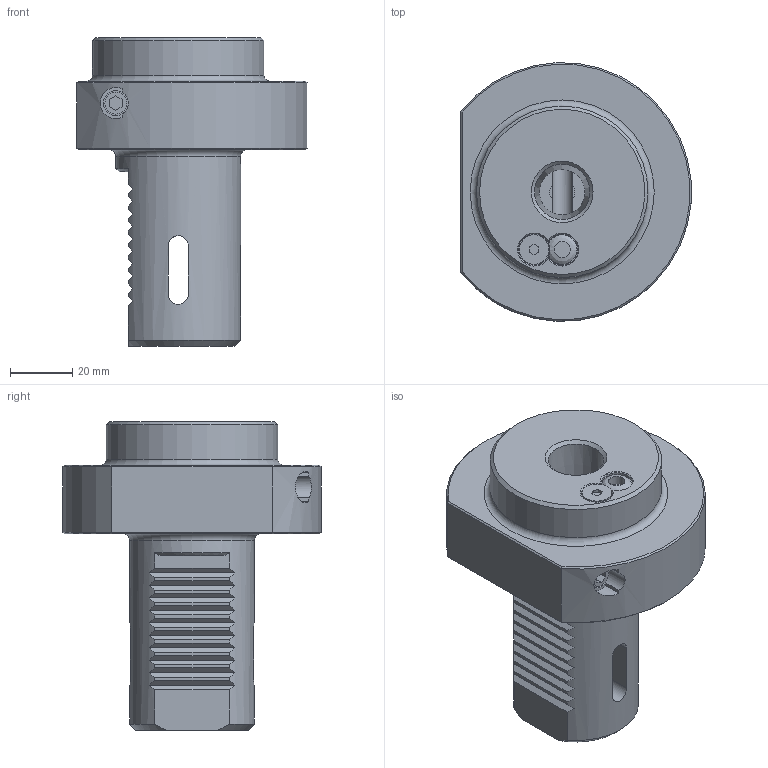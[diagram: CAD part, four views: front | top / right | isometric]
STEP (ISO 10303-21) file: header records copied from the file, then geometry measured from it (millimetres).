
FILE_DESCRIPTION(/* description */ (''),/* implementation_level */ '2;1');
FILE_NAME(/* name */ 'F40-MKD2.stp',/* time_stamp */ '2025-09-25T15:05:17+03:00',/* author */ ('User'),/* organization */ (''),/* preprocessor_version */ 'ST-DEVELOPER v19.2',/* originating_system */ 'Autodesk Inventor 2024',/* authorisation */ '');
FILE_SCHEMA (('AUTOMOTIVE_DESIGN { 1 0 10303 214 3 1 1 }'));
Length unit declared in the file: millimetre
Products named in the file (1): E2-40x40
Bounding box: 73.85 x 82.91 x 99 mm (x, y, z)
Volume: 199137.3 mm3; surface area: 31422.5 mm2
Topology: 1 solids, 1 shells, 103 faces, 268 edges, 176 vertices
Faces by surface type: plane 72, cylinder 18, cone 10, torus 2, bspline 1
Full cylindrical faces by diameter (mm): 5.188 x1, 7 x1, 8 x1, 9.5 x1, 14 x1, 40 x1, 55 x1
Entity records: 3397 total; most frequent: CARTESIAN_POINT 760, DIRECTION 550, ORIENTED_EDGE 536, EDGE_CURVE 268, AXIS2_PLACEMENT_3D 203, VERTEX_POINT 176, LINE 144, VECTOR 144
